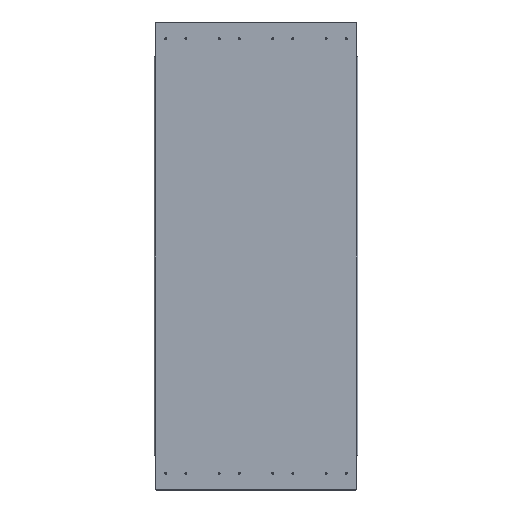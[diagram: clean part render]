
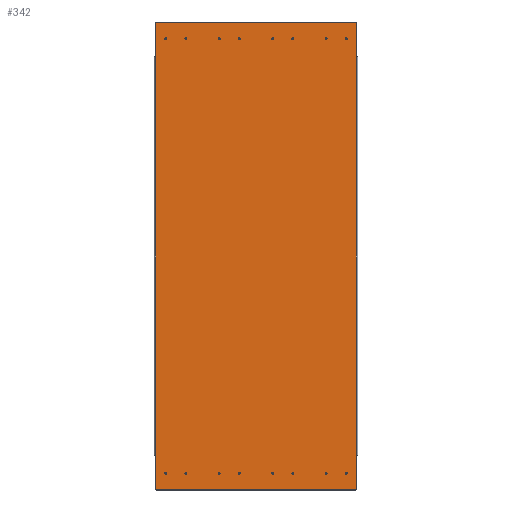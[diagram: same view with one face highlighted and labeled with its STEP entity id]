
A CAD part, top view. The second image highlights one B-rep face of the part: STEP entity #342.
In plain terms, the highlighted planar face has unit normal (0, 0, 1).
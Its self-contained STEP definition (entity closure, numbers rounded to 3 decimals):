
#59=CARTESIAN_POINT('',(1580.,2093.5,567.5));
#60=DIRECTION('',(-0.,-0.,1.));
#61=DIRECTION('',(0.,1.,0.));
#62=AXIS2_PLACEMENT_3D('',#59,#60,#61);
#63=PLANE('',#62);
#64=CARTESIAN_POINT('',(1590.,2130.9,567.5));
#65=VERTEX_POINT('',#64);
#66=CARTESIAN_POINT('',(1590.,2133.5,567.5));
#67=DIRECTION('',(-0.,-0.,1.));
#68=DIRECTION('',(0.,-1.,-0.));
#69=AXIS2_PLACEMENT_3D('',#66,#67,#68);
#70=CIRCLE('',#69,2.6);
#71=EDGE_CURVE('',#65,#65,#70,.T.);
#72=ORIENTED_EDGE('',*,*,#71,.F.);
#73=EDGE_LOOP('',(#72));
#74=FACE_BOUND('',#73,.T.);
#75=CARTESIAN_POINT('',(1530.,2130.9,567.5));
#76=VERTEX_POINT('',#75);
#77=CARTESIAN_POINT('',(1530.,2133.5,567.5));
#78=DIRECTION('',(-0.,-0.,1.));
#79=DIRECTION('',(0.,-1.,-0.));
#80=AXIS2_PLACEMENT_3D('',#77,#78,#79);
#81=CIRCLE('',#80,2.6);
#82=EDGE_CURVE('',#76,#76,#81,.T.);
#83=ORIENTED_EDGE('',*,*,#82,.F.);
#84=EDGE_LOOP('',(#83));
#85=FACE_BOUND('',#84,.T.);
#86=CARTESIAN_POINT('',(1430.,2130.9,567.5));
#87=VERTEX_POINT('',#86);
#88=CARTESIAN_POINT('',(1430.,2133.5,567.5));
#89=DIRECTION('',(-0.,-0.,1.));
#90=DIRECTION('',(0.,-1.,-0.));
#91=AXIS2_PLACEMENT_3D('',#88,#89,#90);
#92=CIRCLE('',#91,2.6);
#93=EDGE_CURVE('',#87,#87,#92,.T.);
#94=ORIENTED_EDGE('',*,*,#93,.F.);
#95=EDGE_LOOP('',(#94));
#96=FACE_BOUND('',#95,.T.);
#97=CARTESIAN_POINT('',(1370.,2130.9,567.5));
#98=VERTEX_POINT('',#97);
#99=CARTESIAN_POINT('',(1370.,2133.5,567.5));
#100=DIRECTION('',(-0.,-0.,1.));
#101=DIRECTION('',(0.,-1.,-0.));
#102=AXIS2_PLACEMENT_3D('',#99,#100,#101);
#103=CIRCLE('',#102,2.6);
#104=EDGE_CURVE('',#98,#98,#103,.T.);
#105=ORIENTED_EDGE('',*,*,#104,.F.);
#106=EDGE_LOOP('',(#105));
#107=FACE_BOUND('',#106,.T.);
#108=CARTESIAN_POINT('',(1270.,2130.9,567.5));
#109=VERTEX_POINT('',#108);
#110=CARTESIAN_POINT('',(1270.,2133.5,567.5));
#111=DIRECTION('',(-0.,-0.,1.));
#112=DIRECTION('',(0.,-1.,-0.));
#113=AXIS2_PLACEMENT_3D('',#110,#111,#112);
#114=CIRCLE('',#113,2.6);
#115=EDGE_CURVE('',#109,#109,#114,.T.);
#116=ORIENTED_EDGE('',*,*,#115,.F.);
#117=EDGE_LOOP('',(#116));
#118=FACE_BOUND('',#117,.T.);
#119=CARTESIAN_POINT('',(1210.,2130.9,567.5));
#120=VERTEX_POINT('',#119);
#121=CARTESIAN_POINT('',(1210.,2133.5,567.5));
#122=DIRECTION('',(-0.,-0.,1.));
#123=DIRECTION('',(0.,-1.,-0.));
#124=AXIS2_PLACEMENT_3D('',#121,#122,#123);
#125=CIRCLE('',#124,2.6);
#126=EDGE_CURVE('',#120,#120,#125,.T.);
#127=ORIENTED_EDGE('',*,*,#126,.F.);
#128=EDGE_LOOP('',(#127));
#129=FACE_BOUND('',#128,.T.);
#130=CARTESIAN_POINT('',(1110.,2130.9,567.5));
#131=VERTEX_POINT('',#130);
#132=CARTESIAN_POINT('',(1110.,2133.5,567.5));
#133=DIRECTION('',(-0.,-0.,1.));
#134=DIRECTION('',(0.,-1.,-0.));
#135=AXIS2_PLACEMENT_3D('',#132,#133,#134);
#136=CIRCLE('',#135,2.6);
#137=EDGE_CURVE('',#131,#131,#136,.T.);
#138=ORIENTED_EDGE('',*,*,#137,.F.);
#139=EDGE_LOOP('',(#138));
#140=FACE_BOUND('',#139,.T.);
#141=CARTESIAN_POINT('',(1050.,2130.9,567.5));
#142=VERTEX_POINT('',#141);
#143=CARTESIAN_POINT('',(1050.,2133.5,567.5));
#144=DIRECTION('',(-0.,-0.,1.));
#145=DIRECTION('',(0.,-1.,-0.));
#146=AXIS2_PLACEMENT_3D('',#143,#144,#145);
#147=CIRCLE('',#146,2.6);
#148=EDGE_CURVE('',#142,#142,#147,.T.);
#149=ORIENTED_EDGE('',*,*,#148,.F.);
#150=EDGE_LOOP('',(#149));
#151=FACE_BOUND('',#150,.T.);
#152=CARTESIAN_POINT('',(1270.,3430.9,567.5));
#153=VERTEX_POINT('',#152);
#154=CARTESIAN_POINT('',(1270.,3433.5,567.5));
#155=DIRECTION('',(-0.,-0.,1.));
#156=DIRECTION('',(0.,-1.,-0.));
#157=AXIS2_PLACEMENT_3D('',#154,#155,#156);
#158=CIRCLE('',#157,2.6);
#159=EDGE_CURVE('',#153,#153,#158,.T.);
#160=ORIENTED_EDGE('',*,*,#159,.F.);
#161=EDGE_LOOP('',(#160));
#162=FACE_BOUND('',#161,.T.);
#163=CARTESIAN_POINT('',(1050.,3430.9,567.5));
#164=VERTEX_POINT('',#163);
#165=CARTESIAN_POINT('',(1050.,3433.5,567.5));
#166=DIRECTION('',(-0.,-0.,1.));
#167=DIRECTION('',(0.,-1.,-0.));
#168=AXIS2_PLACEMENT_3D('',#165,#166,#167);
#169=CIRCLE('',#168,2.6);
#170=EDGE_CURVE('',#164,#164,#169,.T.);
#171=ORIENTED_EDGE('',*,*,#170,.F.);
#172=EDGE_LOOP('',(#171));
#173=FACE_BOUND('',#172,.T.);
#174=CARTESIAN_POINT('',(1210.,3430.9,567.5));
#175=VERTEX_POINT('',#174);
#176=CARTESIAN_POINT('',(1210.,3433.5,567.5));
#177=DIRECTION('',(-0.,-0.,1.));
#178=DIRECTION('',(0.,-1.,-0.));
#179=AXIS2_PLACEMENT_3D('',#176,#177,#178);
#180=CIRCLE('',#179,2.6);
#181=EDGE_CURVE('',#175,#175,#180,.T.);
#182=ORIENTED_EDGE('',*,*,#181,.F.);
#183=EDGE_LOOP('',(#182));
#184=FACE_BOUND('',#183,.T.);
#185=CARTESIAN_POINT('',(1110.,3430.9,567.5));
#186=VERTEX_POINT('',#185);
#187=CARTESIAN_POINT('',(1110.,3433.5,567.5));
#188=DIRECTION('',(-0.,-0.,1.));
#189=DIRECTION('',(0.,-1.,-0.));
#190=AXIS2_PLACEMENT_3D('',#187,#188,#189);
#191=CIRCLE('',#190,2.6);
#192=EDGE_CURVE('',#186,#186,#191,.T.);
#193=ORIENTED_EDGE('',*,*,#192,.F.);
#194=EDGE_LOOP('',(#193));
#195=FACE_BOUND('',#194,.T.);
#196=CARTESIAN_POINT('',(1590.,3430.9,567.5));
#197=VERTEX_POINT('',#196);
#198=CARTESIAN_POINT('',(1590.,3433.5,567.5));
#199=DIRECTION('',(-0.,-0.,1.));
#200=DIRECTION('',(0.,-1.,-0.));
#201=AXIS2_PLACEMENT_3D('',#198,#199,#200);
#202=CIRCLE('',#201,2.6);
#203=EDGE_CURVE('',#197,#197,#202,.T.);
#204=ORIENTED_EDGE('',*,*,#203,.F.);
#205=EDGE_LOOP('',(#204));
#206=FACE_BOUND('',#205,.T.);
#207=CARTESIAN_POINT('',(1530.,3430.9,567.5));
#208=VERTEX_POINT('',#207);
#209=CARTESIAN_POINT('',(1530.,3433.5,567.5));
#210=DIRECTION('',(-0.,-0.,1.));
#211=DIRECTION('',(0.,-1.,-0.));
#212=AXIS2_PLACEMENT_3D('',#209,#210,#211);
#213=CIRCLE('',#212,2.6);
#214=EDGE_CURVE('',#208,#208,#213,.T.);
#215=ORIENTED_EDGE('',*,*,#214,.F.);
#216=EDGE_LOOP('',(#215));
#217=FACE_BOUND('',#216,.T.);
#218=CARTESIAN_POINT('',(1370.,3430.9,567.5));
#219=VERTEX_POINT('',#218);
#220=CARTESIAN_POINT('',(1370.,3433.5,567.5));
#221=DIRECTION('',(-0.,-0.,1.));
#222=DIRECTION('',(0.,-1.,-0.));
#223=AXIS2_PLACEMENT_3D('',#220,#221,#222);
#224=CIRCLE('',#223,2.6);
#225=EDGE_CURVE('',#219,#219,#224,.T.);
#226=ORIENTED_EDGE('',*,*,#225,.F.);
#227=EDGE_LOOP('',(#226));
#228=FACE_BOUND('',#227,.T.);
#229=CARTESIAN_POINT('',(1430.,3430.9,567.5));
#230=VERTEX_POINT('',#229);
#231=CARTESIAN_POINT('',(1430.,3433.5,567.5));
#232=DIRECTION('',(-0.,-0.,1.));
#233=DIRECTION('',(0.,-1.,-0.));
#234=AXIS2_PLACEMENT_3D('',#231,#232,#233);
#235=CIRCLE('',#234,2.6);
#236=EDGE_CURVE('',#230,#230,#235,.T.);
#237=ORIENTED_EDGE('',*,*,#236,.F.);
#238=EDGE_LOOP('',(#237));
#239=FACE_BOUND('',#238,.T.);
#240=CARTESIAN_POINT('',(1020.,3379.5,567.5));
#241=VERTEX_POINT('',#240);
#242=CARTESIAN_POINT('',(1020.,3482.5,567.5));
#243=VERTEX_POINT('',#242);
#244=CARTESIAN_POINT('',(1020.,3379.5,567.5));
#245=DIRECTION('',(0.,1.,0.));
#246=VECTOR('',#245,103.);
#247=LINE('',#244,#246);
#248=EDGE_CURVE('',#241,#243,#247,.T.);
#249=ORIENTED_EDGE('',*,*,#248,.F.);
#250=CARTESIAN_POINT('',(1020.,2187.5,567.5));
#251=VERTEX_POINT('',#250);
#252=CARTESIAN_POINT('',(1020.,3379.5,567.5));
#253=DIRECTION('',(-0.,-1.,-0.));
#254=VECTOR('',#253,1192.);
#255=LINE('',#252,#254);
#256=EDGE_CURVE('',#241,#251,#255,.T.);
#257=ORIENTED_EDGE('',*,*,#256,.T.);
#258=CARTESIAN_POINT('',(1020.,2084.5,567.5));
#259=VERTEX_POINT('',#258);
#260=CARTESIAN_POINT('',(1020.,2187.5,567.5));
#261=DIRECTION('',(0.,-1.,-0.));
#262=VECTOR('',#261,103.);
#263=LINE('',#260,#262);
#264=EDGE_CURVE('',#251,#259,#263,.T.);
#265=ORIENTED_EDGE('',*,*,#264,.T.);
#266=CARTESIAN_POINT('',(1021.,2083.5,567.5));
#267=VERTEX_POINT('',#266);
#268=CARTESIAN_POINT('',(1021.,2084.5,567.5));
#269=DIRECTION('',(-0.,-0.,1.));
#270=DIRECTION('',(0.,-1.,-0.));
#271=AXIS2_PLACEMENT_3D('',#268,#269,#270);
#272=CIRCLE('',#271,1.);
#273=EDGE_CURVE('',#259,#267,#272,.T.);
#274=ORIENTED_EDGE('',*,*,#273,.T.);
#275=CARTESIAN_POINT('',(1619.,2083.5,567.5));
#276=VERTEX_POINT('',#275);
#277=CARTESIAN_POINT('',(1619.,2083.5,567.5));
#278=DIRECTION('',(-1.,0.,0.));
#279=VECTOR('',#278,598.);
#280=LINE('',#277,#279);
#281=EDGE_CURVE('',#276,#267,#280,.T.);
#282=ORIENTED_EDGE('',*,*,#281,.F.);
#283=CARTESIAN_POINT('',(1620.,2084.5,567.5));
#284=VERTEX_POINT('',#283);
#285=CARTESIAN_POINT('',(1619.,2084.5,567.5));
#286=DIRECTION('',(-0.,-0.,1.));
#287=DIRECTION('',(0.,-1.,-0.));
#288=AXIS2_PLACEMENT_3D('',#285,#286,#287);
#289=CIRCLE('',#288,1.);
#290=EDGE_CURVE('',#276,#284,#289,.T.);
#291=ORIENTED_EDGE('',*,*,#290,.T.);
#292=CARTESIAN_POINT('',(1620.,2187.5,567.5));
#293=VERTEX_POINT('',#292);
#294=CARTESIAN_POINT('',(1620.,2187.5,567.5));
#295=DIRECTION('',(0.,-1.,-0.));
#296=VECTOR('',#295,103.);
#297=LINE('',#294,#296);
#298=EDGE_CURVE('',#293,#284,#297,.T.);
#299=ORIENTED_EDGE('',*,*,#298,.F.);
#300=CARTESIAN_POINT('',(1620.,3379.5,567.5));
#301=VERTEX_POINT('',#300);
#302=CARTESIAN_POINT('',(1620.,2187.5,567.5));
#303=DIRECTION('',(0.,1.,0.));
#304=VECTOR('',#303,1192.);
#305=LINE('',#302,#304);
#306=EDGE_CURVE('',#293,#301,#305,.T.);
#307=ORIENTED_EDGE('',*,*,#306,.T.);
#308=CARTESIAN_POINT('',(1620.,3482.5,567.5));
#309=VERTEX_POINT('',#308);
#310=CARTESIAN_POINT('',(1620.,3379.5,567.5));
#311=DIRECTION('',(0.,1.,0.));
#312=VECTOR('',#311,103.);
#313=LINE('',#310,#312);
#314=EDGE_CURVE('',#301,#309,#313,.T.);
#315=ORIENTED_EDGE('',*,*,#314,.T.);
#316=CARTESIAN_POINT('',(1619.,3483.5,567.5));
#317=VERTEX_POINT('',#316);
#318=CARTESIAN_POINT('',(1619.,3482.5,567.5));
#319=DIRECTION('',(-0.,-0.,1.));
#320=DIRECTION('',(0.,-1.,-0.));
#321=AXIS2_PLACEMENT_3D('',#318,#319,#320);
#322=CIRCLE('',#321,1.);
#323=EDGE_CURVE('',#309,#317,#322,.T.);
#324=ORIENTED_EDGE('',*,*,#323,.T.);
#325=CARTESIAN_POINT('',(1021.,3483.5,567.5));
#326=VERTEX_POINT('',#325);
#327=CARTESIAN_POINT('',(1619.,3483.5,567.5));
#328=DIRECTION('',(-1.,0.,0.));
#329=VECTOR('',#328,598.);
#330=LINE('',#327,#329);
#331=EDGE_CURVE('',#317,#326,#330,.T.);
#332=ORIENTED_EDGE('',*,*,#331,.T.);
#333=CARTESIAN_POINT('',(1021.,3482.5,567.5));
#334=DIRECTION('',(-0.,-0.,1.));
#335=DIRECTION('',(0.,-1.,-0.));
#336=AXIS2_PLACEMENT_3D('',#333,#334,#335);
#337=CIRCLE('',#336,1.);
#338=EDGE_CURVE('',#326,#243,#337,.T.);
#339=ORIENTED_EDGE('',*,*,#338,.T.);
#340=EDGE_LOOP('',(#249,#257,#265,#274,#282,#291,#299,#307,#315,#324,#332,#339));
#341=FACE_BOUND('',#340,.T.);
#342=ADVANCED_FACE('',(#74,#85,#96,#107,#118,#129,#140,#151,#162,#173,#184,#195,#206,#217,#228,#239,#341),#63,.T.);
